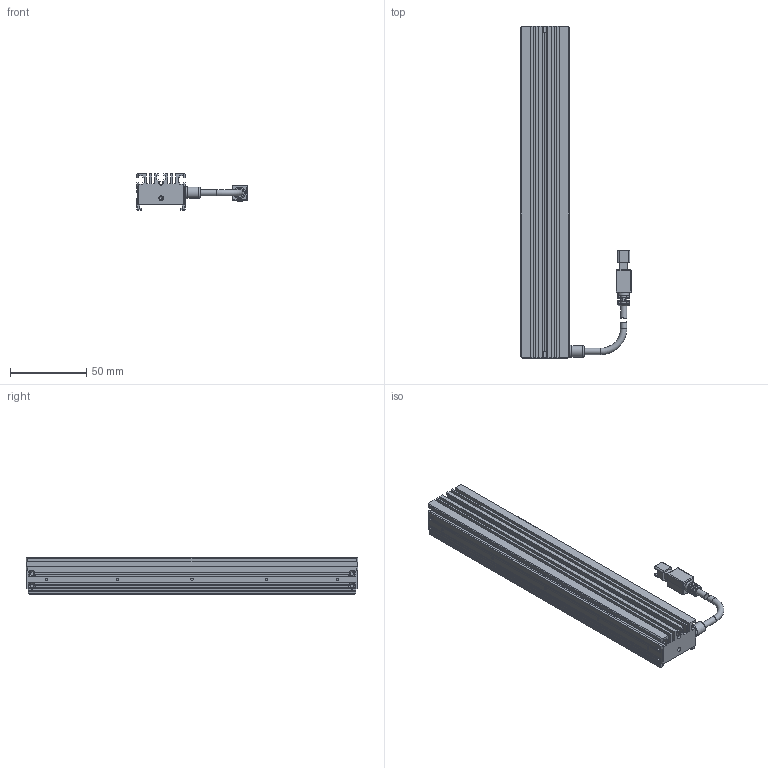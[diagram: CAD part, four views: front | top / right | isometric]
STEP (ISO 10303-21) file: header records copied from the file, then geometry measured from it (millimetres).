
FILE_DESCRIPTION (( 'STEP AP203' ), '1' );
FILE_NAME ('OPT-ILI21832-IR-V1.0尨砩芞.STEP', '2025-01-18T08:00:36', ( '' ), ( '' ), 'SwSTEP 2.0', 'SolidWorks 2016', '' );
FILE_SCHEMA (( 'CONFIG_CONTROL_DESIGN' ));
Length unit declared in the file: millimetre
Products named in the file (1): OPT-ILI21832-IR-V1.0尨砩芞
Bounding box: 72.6 x 218 x 24 mm (x, y, z)
Volume: 120772.5 mm3; surface area: 55787.4 mm2
Topology: 5 solids, 13 shells, 596 faces, 1547 edges, 991 vertices
Faces by surface type: plane 402, cylinder 136, cone 28, bspline 20, torus 10
Full cylindrical faces by diameter (mm): 1.1 x2, 1.4 x2, 1.6 x17, 2 x7, 2.4 x7, 2.5 x2, 3 x2, 3.5 x1, 4.1 x3, 7.5 x2, 8 x1
Entity records: 18251 total; most frequent: CARTESIAN_POINT 4191, ORIENTED_EDGE 2886, DIRECTION 2786, EDGE_CURVE 1443, LINE 986, VECTOR 986, VERTEX_POINT 963, AXIS2_PLACEMENT_3D 900
